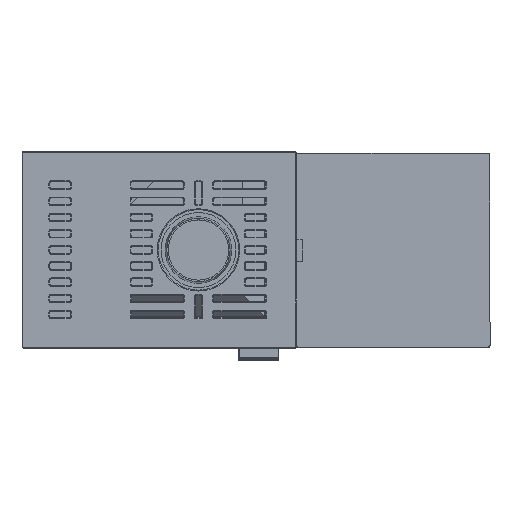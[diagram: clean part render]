
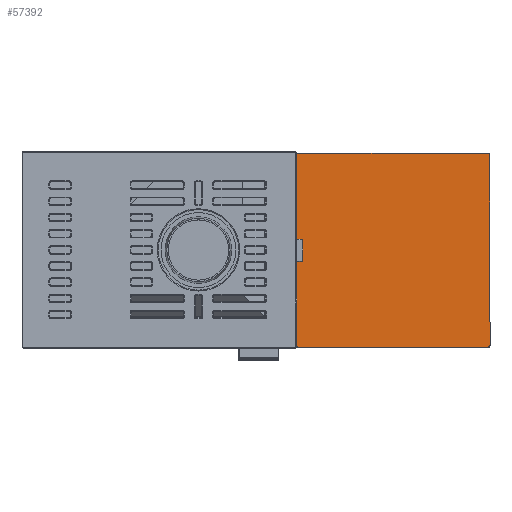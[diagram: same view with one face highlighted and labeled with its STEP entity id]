
A CAD part, top view. The second image highlights one B-rep face of the part: STEP entity #57392.
In plain terms, the highlighted planar face has unit normal (0, 0, 1).
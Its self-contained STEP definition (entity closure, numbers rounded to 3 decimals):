
#2081=CIRCLE('',#61280,4.);
#2082=CIRCLE('',#61281,4.);
#2083=CIRCLE('',#61282,4.);
#2084=CIRCLE('',#61283,4.);
#5464=LINE('',#106210,#8909);
#5474=LINE('',#107519,#8919);
#5476=LINE('',#107523,#8921);
#5480=LINE('',#107532,#8925);
#8909=VECTOR('',#71443,1000.);
#8919=VECTOR('',#71455,1000.);
#8921=VECTOR('',#71459,1000.);
#8925=VECTOR('',#71465,1000.);
#21772=ORIENTED_EDGE('',*,*,#30223,.F.);
#21773=ORIENTED_EDGE('',*,*,#30233,.T.);
#21774=ORIENTED_EDGE('',*,*,#30229,.T.);
#21775=ORIENTED_EDGE('',*,*,#30234,.T.);
#21776=ORIENTED_EDGE('',*,*,#30006,.T.);
#21777=ORIENTED_EDGE('',*,*,#30235,.T.);
#21778=ORIENTED_EDGE('',*,*,#30225,.F.);
#21779=ORIENTED_EDGE('',*,*,#30236,.T.);
#30006=EDGE_CURVE('',#35064,#35065,#5464,.T.);
#30223=EDGE_CURVE('',#35281,#35282,#5474,.T.);
#30225=EDGE_CURVE('',#35283,#35284,#5476,.T.);
#30229=EDGE_CURVE('',#35287,#35288,#5480,.T.);
#30233=EDGE_CURVE('',#35281,#35287,#2081,.F.);
#30234=EDGE_CURVE('',#35288,#35064,#2082,.F.);
#30235=EDGE_CURVE('',#35065,#35284,#2083,.F.);
#30236=EDGE_CURVE('',#35283,#35282,#2084,.F.);
#35064=VERTEX_POINT('',#106211);
#35065=VERTEX_POINT('',#106212);
#35281=VERTEX_POINT('',#107518);
#35282=VERTEX_POINT('',#107520);
#35283=VERTEX_POINT('',#107524);
#35284=VERTEX_POINT('',#107525);
#35287=VERTEX_POINT('',#107533);
#35288=VERTEX_POINT('',#107534);
#40932=EDGE_LOOP('',(#21772,#21773,#21774,#21775,#21776,#21777,#21778,#21779));
#44155=FACE_BOUND('',#40932,.T.);
#46045=PLANE('',#61279);
#57392=ADVANCED_FACE('',(#44155),#46045,.F.);
#61279=AXIS2_PLACEMENT_3D('',#107540,#71469,#71470);
#61280=AXIS2_PLACEMENT_3D('',#107541,#71471,#71472);
#61281=AXIS2_PLACEMENT_3D('',#107542,#71473,#71474);
#61282=AXIS2_PLACEMENT_3D('',#107543,#71475,#71476);
#61283=AXIS2_PLACEMENT_3D('',#107544,#71477,#71478);
#71443=DIRECTION('',(-1.,0.,0.));
#71455=DIRECTION('',(-1.,0.,0.));
#71459=DIRECTION('',(0.,1.,0.));
#71465=DIRECTION('',(0.,1.,0.));
#71469=DIRECTION('',(0.,0.,-1.));
#71470=DIRECTION('',(-1.,0.,0.));
#71471=DIRECTION('',(0.,0.,-1.));
#71472=DIRECTION('',(-1.,0.,0.));
#71473=DIRECTION('',(0.,0.,-1.));
#71474=DIRECTION('',(-1.,0.,0.));
#71475=DIRECTION('',(0.,0.,-1.));
#71476=DIRECTION('',(-1.,0.,0.));
#71477=DIRECTION('',(0.,0.,-1.));
#71478=DIRECTION('',(-1.,0.,0.));
#106210=CARTESIAN_POINT('',(217.5,0.,561.5));
#106211=CARTESIAN_POINT('',(213.5,0.,561.5));
#106212=CARTESIAN_POINT('',(-213.5,0.,561.5));
#107518=CARTESIAN_POINT('',(213.5,-435.,561.5));
#107519=CARTESIAN_POINT('',(217.5,-435.,561.5));
#107520=CARTESIAN_POINT('',(-213.5,-435.,561.5));
#107523=CARTESIAN_POINT('',(-217.5,-435.,561.5));
#107524=CARTESIAN_POINT('',(-217.5,-431.,561.5));
#107525=CARTESIAN_POINT('',(-217.5,-4.,561.5));
#107532=CARTESIAN_POINT('',(217.5,-435.,561.5));
#107533=CARTESIAN_POINT('',(217.5,-431.,561.5));
#107534=CARTESIAN_POINT('',(217.5,-4.,561.5));
#107540=CARTESIAN_POINT('',(217.5,-435.,561.5));
#107541=CARTESIAN_POINT('',(213.5,-431.,561.5));
#107542=CARTESIAN_POINT('',(213.5,-4.,561.5));
#107543=CARTESIAN_POINT('',(-213.5,-4.,561.5));
#107544=CARTESIAN_POINT('',(-213.5,-431.,561.5));
